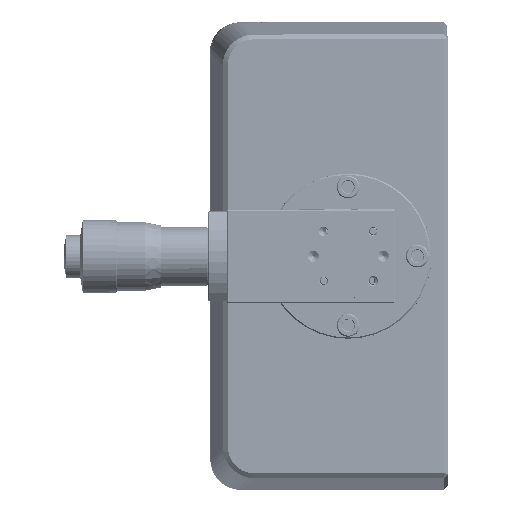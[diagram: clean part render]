
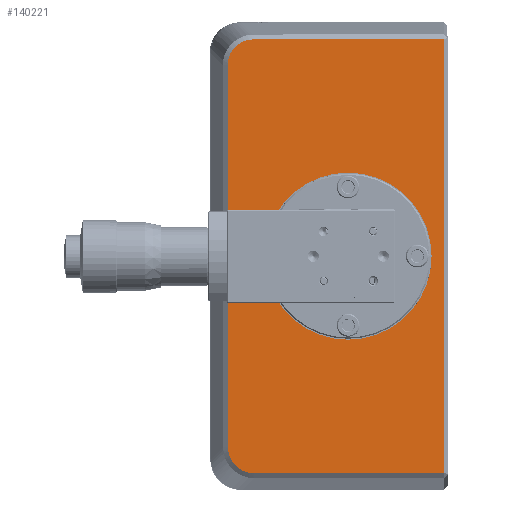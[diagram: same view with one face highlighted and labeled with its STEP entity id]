
A CAD part, left-side view. The second image highlights one B-rep face of the part: STEP entity #140221.
In plain terms, the highlighted planar face has unit normal (-1, -0.002, -0.001).
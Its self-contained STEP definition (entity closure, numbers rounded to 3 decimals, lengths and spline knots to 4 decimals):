
#4980 = B_SPLINE_CURVE_WITH_KNOTS ( 'NONE', 3,
 ( #208481, #210619, #58238, #106546, #60389, #22101, #127306, #155975, #189934, #39646 ),
 .UNSPECIFIED., .F., .F.,
 ( 4, 2, 2, 2, 4 ),
 ( 0., 0.25, 0.5, 0.75, 1. ),
 .UNSPECIFIED. ) ;
#10235 = VECTOR ( 'NONE', #106486, 39.3701 ) ;
#11631 = LINE ( 'NONE', #14891, #120170 ) ;
#14891 = CARTESIAN_POINT ( 'NONE',  ( -0.0923, -7.4791, -3.0568 ) ) ;
#15166 = ORIENTED_EDGE ( 'NONE', *, *, #90700, .T. ) ;
#17280 = CARTESIAN_POINT ( 'NONE',  ( -0.0937, -6.6638, -2.8489 ) ) ;
#20615 = DIRECTION ( 'NONE',  ( -0.001, 0.001, 1. ) ) ;
#22101 = CARTESIAN_POINT ( 'NONE',  ( -0.0935, -6.7442, -3.016 ) ) ;
#24840 = CARTESIAN_POINT ( 'NONE',  ( -0.0953, -6.7398, 0.3807 ) ) ;
#24906 = ORIENTED_EDGE ( 'NONE', *, *, #124746, .T. ) ;
#25636 = DIRECTION ( 'NONE',  ( -0.001, 0.001, 1. ) ) ;
#28060 = CARTESIAN_POINT ( 'NONE',  ( -0.0951, -6.8685, 0.4226 ) ) ;
#31345 = VECTOR ( 'NONE', #176009, 39.3701 ) ;
#36302 = CIRCLE ( 'NONE', #60662, 0.67 ) ;
#38205 = VECTOR ( 'NONE', #123130, 39.3701 ) ;
#38701 = EDGE_LOOP ( 'NONE', ( #196467, #59173, #24906, #64805, #86690, #15166 ) ) ;
#39646 = CARTESIAN_POINT ( 'NONE',  ( -0.0933, -6.873, -3.0575 ) ) ;
#39866 = EDGE_CURVE ( 'NONE', #122920, #138100, #4980, .T. ) ;
#41247 = EDGE_CURVE ( 'NONE', #138100, #205430, #11631, .T. ) ;
#58238 = CARTESIAN_POINT ( 'NONE',  ( -0.0937, -6.6693, -2.9039 ) ) ;
#59173 = ORIENTED_EDGE ( 'NONE', *, *, #41247, .T. ) ;
#60147 = VERTEX_POINT ( 'NONE', #127680 ) ;
#60389 = CARTESIAN_POINT ( 'NONE',  ( -0.0936, -6.7057, -2.9775 ) ) ;
#60662 = AXIS2_PLACEMENT_3D ( 'NONE', #60698, #196697, #25636 ) ;
#60698 = CARTESIAN_POINT ( 'NONE',  ( -0.093, -7.6269, -1.3165 ) ) ;
#60805 = EDGE_CURVE ( 'NONE', #154622, #164177, #214552, .T. ) ;
#64805 = ORIENTED_EDGE ( 'NONE', *, *, #181444, .T. ) ;
#66614 = CARTESIAN_POINT ( 'NONE',  ( -0.0927, -8.3946, 0.4246 ) ) ;
#68664 = B_SPLINE_CURVE_WITH_KNOTS ( 'NONE', 3,
 ( #28060, #192667, #108210, #175136, #24840, #91751, #158702, #145512, #163020, #112553 ),
 .UNSPECIFIED., .F., .F.,
 ( 4, 2, 2, 2, 4 ),
 ( 0., 0.25, 0.5, 0.75, 1. ),
 .UNSPECIFIED. ) ;
#78538 = DIRECTION ( 'NONE',  ( 0.002, -1., 0.001 ) ) ;
#86690 = ORIENTED_EDGE ( 'NONE', *, *, #115197, .T. ) ;
#90700 = EDGE_CURVE ( 'NONE', #60147, #122920, #144836, .T. ) ;
#91751 = CARTESIAN_POINT ( 'NONE',  ( -0.0953, -6.7014, 0.3422 ) ) ;
#106486 = DIRECTION ( 'NONE',  ( 0.001, -0.001, -1. ) ) ;
#106546 = CARTESIAN_POINT ( 'NONE',  ( -0.0936, -6.6902, -2.9543 ) ) ;
#108210 = CARTESIAN_POINT ( 'NONE',  ( -0.0952, -6.8135, 0.4171 ) ) ;
#112553 = CARTESIAN_POINT ( 'NONE',  ( -0.0953, -6.6598, 0.2134 ) ) ;
#115197 = EDGE_CURVE ( 'NONE', #135884, #60147, #68664, .T. ) ;
#116459 = FACE_OUTER_BOUND ( 'NONE', #38701, .T. ) ;
#120010 = AXIS2_PLACEMENT_3D ( 'NONE', #197319, #170909, #20615 ) ;
#120170 = VECTOR ( 'NONE', #78538, 39.3701 ) ;
#122920 = VERTEX_POINT ( 'NONE', #17280 ) ;
#123130 = DIRECTION ( 'NONE',  ( -0.001, 0.001, 1. ) ) ;
#123412 = CARTESIAN_POINT ( 'NONE',  ( -0.0941, -7.4746, 0.4234 ) ) ;
#124746 = EDGE_CURVE ( 'NONE', #205430, #205347, #188952, .T. ) ;
#124938 = AXIS2_PLACEMENT_3D ( 'NONE', #134005, #153696, #186615 ) ;
#127306 = CARTESIAN_POINT ( 'NONE',  ( -0.0935, -6.7675, -3.0314 ) ) ;
#127680 = CARTESIAN_POINT ( 'NONE',  ( -0.0953, -6.6598, 0.2134 ) ) ;
#134005 = CARTESIAN_POINT ( 'NONE',  ( -0.0932, -7.4769, -1.3167 ) ) ;
#135051 = EDGE_CURVE ( 'NONE', #164177, #154622, #36302, .T. ) ;
#135884 = VERTEX_POINT ( 'NONE', #170204 ) ;
#136370 = CARTESIAN_POINT ( 'NONE',  ( -0.0918, -8.3969, -1.3155 ) ) ;
#138100 = VERTEX_POINT ( 'NONE', #187293 ) ;
#140221 = ADVANCED_FACE ( 'NONE', ( #116459, #204119 ), #203034, .F. ) ;
#143119 = LINE ( 'NONE', #123412, #31345 ) ;
#144836 = LINE ( 'NONE', #211650, #10235 ) ;
#145512 = CARTESIAN_POINT ( 'NONE',  ( -0.0953, -6.6652, 0.2684 ) ) ;
#145536 = EDGE_LOOP ( 'NONE', ( #146216, #183921 ) ) ;
#146216 = ORIENTED_EDGE ( 'NONE', *, *, #135051, .F. ) ;
#153696 = DIRECTION ( 'NONE',  ( 1., 0.002, 0.001 ) ) ;
#154622 = VERTEX_POINT ( 'NONE', #213017 ) ;
#155975 = CARTESIAN_POINT ( 'NONE',  ( -0.0934, -6.818, -3.0522 ) ) ;
#157241 = CARTESIAN_POINT ( 'NONE',  ( -0.0934, -7.626, -0.6465 ) ) ;
#158702 = CARTESIAN_POINT ( 'NONE',  ( -0.0953, -6.6859, 0.3189 ) ) ;
#163020 = CARTESIAN_POINT ( 'NONE',  ( -0.0953, -6.6598, 0.241 ) ) ;
#164177 = VERTEX_POINT ( 'NONE', #157241 ) ;
#170204 = CARTESIAN_POINT ( 'NONE',  ( -0.0951, -6.8685, 0.4226 ) ) ;
#170909 = DIRECTION ( 'NONE',  ( -1., -0.002, -0.001 ) ) ;
#175136 = CARTESIAN_POINT ( 'NONE',  ( -0.0952, -6.763, 0.3962 ) ) ;
#176009 = DIRECTION ( 'NONE',  ( -0.002, 1., -0.001 ) ) ;
#181444 = EDGE_CURVE ( 'NONE', #205347, #135884, #143119, .T. ) ;
#183921 = ORIENTED_EDGE ( 'NONE', *, *, #60805, .F. ) ;
#186615 = DIRECTION ( 'NONE',  ( 0.001, -0.001, -1. ) ) ;
#187293 = CARTESIAN_POINT ( 'NONE',  ( -0.0933, -6.873, -3.0575 ) ) ;
#188952 = LINE ( 'NONE', #136370, #38205 ) ;
#189934 = CARTESIAN_POINT ( 'NONE',  ( -0.0933, -6.8454, -3.0576 ) ) ;
#192667 = CARTESIAN_POINT ( 'NONE',  ( -0.0951, -6.841, 0.4226 ) ) ;
#196467 = ORIENTED_EDGE ( 'NONE', *, *, #39866, .T. ) ;
#196697 = DIRECTION ( 'NONE',  ( -1., -0.002, -0.001 ) ) ;
#197319 = CARTESIAN_POINT ( 'NONE',  ( -0.093, -7.6269, -1.3165 ) ) ;
#199352 = CARTESIAN_POINT ( 'NONE',  ( -0.0909, -8.3991, -3.0556 ) ) ;
#203034 = PLANE ( 'NONE',  #124938 ) ;
#204119 = FACE_BOUND ( 'NONE', #145536, .T. ) ;
#205347 = VERTEX_POINT ( 'NONE', #66614 ) ;
#205430 = VERTEX_POINT ( 'NONE', #199352 ) ;
#208481 = CARTESIAN_POINT ( 'NONE',  ( -0.0937, -6.6638, -2.8489 ) ) ;
#210619 = CARTESIAN_POINT ( 'NONE',  ( -0.0937, -6.6638, -2.8764 ) ) ;
#211650 = CARTESIAN_POINT ( 'NONE',  ( -0.0945, -6.6618, -1.3177 ) ) ;
#213017 = CARTESIAN_POINT ( 'NONE',  ( -0.0927, -7.6278, -1.9865 ) ) ;
#214552 = CIRCLE ( 'NONE', #120010, 0.67 ) ;
